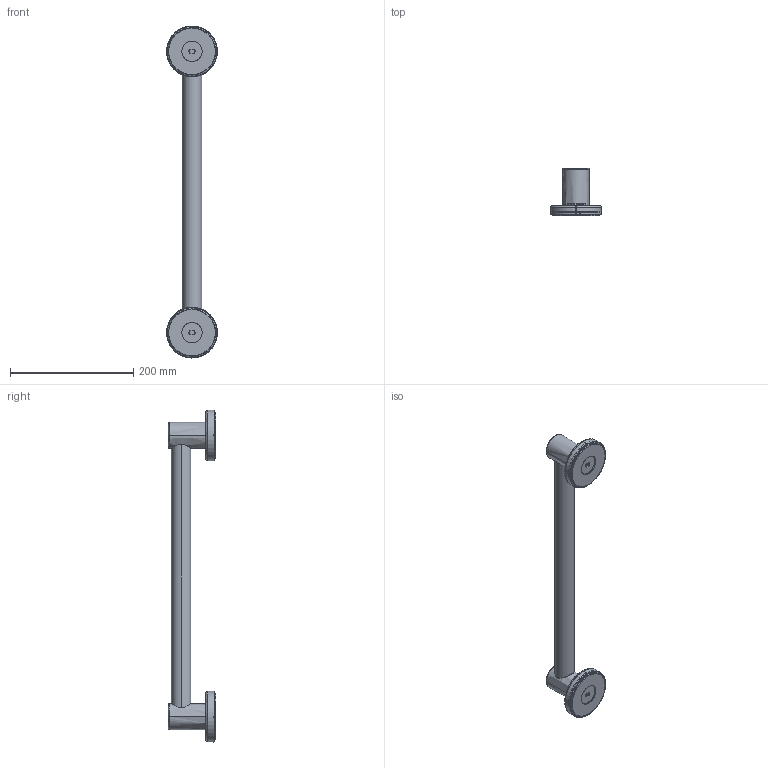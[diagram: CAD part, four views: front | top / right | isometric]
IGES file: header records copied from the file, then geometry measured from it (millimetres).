
Start section: SolidWorks IGES file using analytic representation for surfaces
Global section: file name: C:\Users\tzhang10\Desktop\neu file\yg0418bg_asm.IGS; native system: SolidWorks 2023; preprocessor: SolidWorks 2023; author: tzhang10; date: 250610.104443; units: inch
Bounding box: 82.5 x 76.8 x 539.7 mm (x, y, z)
Surface area: 204685.2 mm2 (no closed solid volume)
Topology: 0 solids, 0 shells, 1038 faces, 12148 edges, 12103 vertices
Faces by surface type: bspline 534, revolution 504
